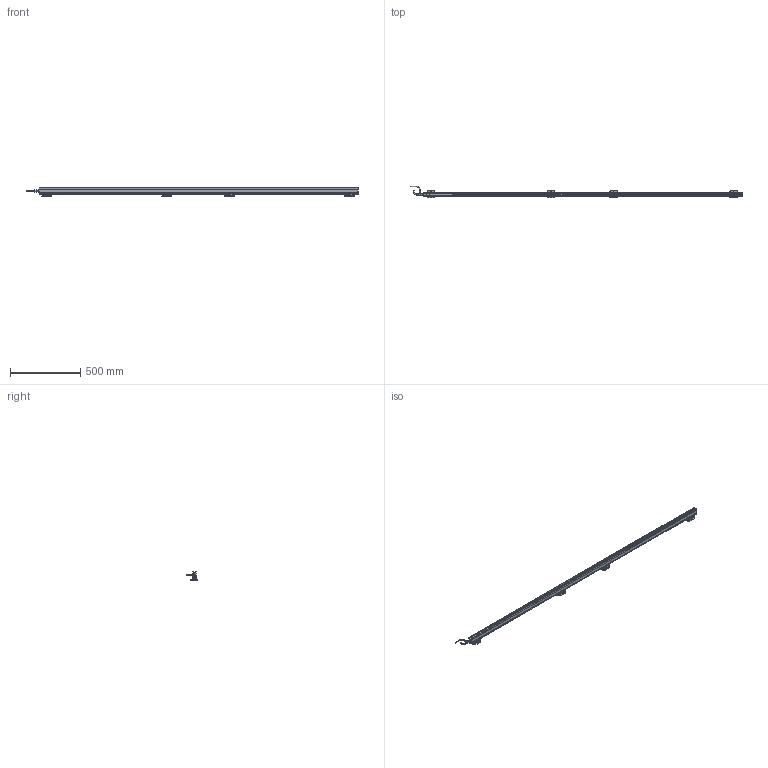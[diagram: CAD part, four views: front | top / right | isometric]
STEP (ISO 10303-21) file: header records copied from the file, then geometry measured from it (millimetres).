
FILE_DESCRIPTION(('Bauteilbeschreibung','HiCAD-Model','HiCAD-STEP-TRANSLATION','Bauteilbeschreibung'),'2;1');
FILE_NAME('PERFORMAXIQEASY_2190-2280_3D.STP','2014-03-05T12:31:18+00:00',('Konstrukteur'),('Konstrukteur Firma GmbH'),' HiCAD 2011, Step 1600.0 ','HiCAD 2011','confidential');
FILE_SCHEMA(('AUTOMOTIVE_DESIGN { 1 2 10303 214 0 1 1 1 }'));
Products named in the file (46): PERFORMAXIQEASY_2190_2280_3D; A_PERFORMAX IQ EASY 2190_2280; A_PERFORMAX IQ EASY SPEED; A_CAP DE; A_CAP CE_5; LED_2C_3MM; LED02C03MM; A519020315_CONNECTOR APPLIANCE; A_INSERT; A_CONTACTS; A_HOUSING; A_PROFILE; A_POTTING; PIN; PIN0; A532000100_BRACKET BARS_ MOUNT; A_SIDE PIECE; A0SIDE0PIECE; A_BRACKET SMALL; A_SLIDE PIECE; A5320001000BRACKET0BARS00MOUNT; A0SIDE0PIECE0; A0SIDE0PIECE1; A0BRACKET0SMALL; A0SLIDE0PIECE; A5320001000BRACKET0BARS00MOUNT0; A0SIDE0PIECE2; A0SIDE0PIECE3; A0BRACKET0SMALL0; A0SLIDE0PIECE0; A0SIDE0PIECE4; A0SIDE0PIECE5; A0BRACKET0SMALL1; A0SLIDE0PIECE1; A_CONNECTOR STRAIGHT; EXTRUDED SOLID_0; DRAAD GEBOGEN; REVOLVED SOLID_1; REVOLVED SOLID_3; A_CONNECTOR ANGLED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
Assembly tree (45 placements, depth 5):
  PERFORMAXIQEASY_2190_2280_3D
    A_PERFORMAX IQ EASY 2190_2280
      A_PERFORMAX IQ EASY SPEED
        A_CAP DE
        A_CAP CE_5
        LED_2C_3MM
        LED02C03MM
        A519020315_CONNECTOR APPLIANCE
          A_INSERT
          A_CONTACTS
          A_HOUSING
        A_PROFILE
        A_POTTING
        PIN
        PIN0
      A532000100_BRACKET BARS_ MOUNT
        A_SIDE PIECE
        A0SIDE0PIECE
        A_BRACKET SMALL
        A_SLIDE PIECE
      A5320001000BRACKET0BARS00MOUNT
        A0SIDE0PIECE0
        A0SIDE0PIECE1
        A0BRACKET0SMALL
        A0SLIDE0PIECE
      A5320001000BRACKET0BARS00MOUNT0
        A0SIDE0PIECE2
        A0SIDE0PIECE3
        A0BRACKET0SMALL0
        A0SLIDE0PIECE0
      A5320001000BRACKET0BARS00MOUNT0
        A0SIDE0PIECE4
        A0SIDE0PIECE5
        A0BRACKET0SMALL1
        A0SLIDE0PIECE1
      A_CONNECTOR STRAIGHT
        EXTRUDED SOLID_0
        DRAAD GEBOGEN
        REVOLVED SOLID_1
        REVOLVED SOLID_3
      A_CONNECTOR ANGLED
        REVOLVED0SOLID01
        EXTRUDED0SOLID00
        C_EDGE SWEEP_0
        REVOLVED SOLID_2
        REVOLVED0SOLID03
Bounding box: 2357.89 x 84.27 x 63.13 mm (x, y, z)
Volume: 2362916.1 mm3; surface area: 586653.9 mm2
Topology: 41 solids, 41 shells, 3447 faces, 8839 edges, 5258 vertices
Faces by surface type: cylinder 1457, plane 1315, sphere 222, torus 205, bspline 168, cone 80
Full cylindrical faces by diameter (mm): 0.8 x10, 1 x5, 2.387 x8, 3 x19, 3.1 x1, 4.2 x2, 5 x4, 5.5 x20, 8 x2, 8.2 x1, 8.4 x2, 8.945 x1, 9 x2, 10.2 x1, 10.5 x3, 11 x1, 12 x3, 12.8 x1, 13.8 x4, 14.5 x3
Entity records: 159221 total; most frequent: CARTESIAN_POINT 37152, DIRECTION 17145, ORIENTED_EDGE 16748, EDGE_CURVE 8374, COLOUR_RGB 7959, PRESENTATION_STYLE_ASSIGNMENT 7959, OVER_RIDING_STYLED_ITEM 7923, CURVE_STYLE 7918
